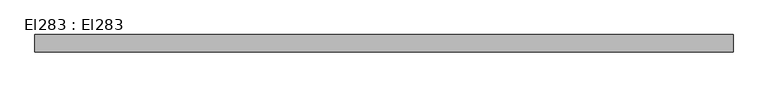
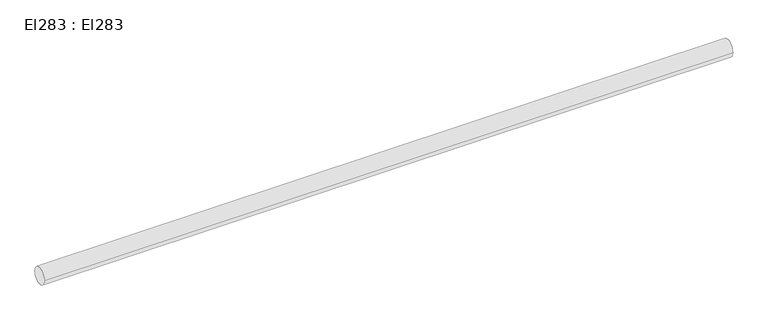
"""IFC4 building model written with IfcOpenShell, lengths in millimetres: cable carrier segment geometry, El283 : El283."""

import ifcopenshell
import ifcopenshell.guid

model = None  # the IFC model being written
_history = None  # IfcOwnerHistory: only IFC2X3 demands one
_inside = {}  # id of a spatial element -> (the spatial element, [elements in it])
_under = {}  # id of a project, library or spatial element -> (it, [spatial elements below it])
_declared = {}  # id of a project -> (the project, [libraries it declares])
_typed = {}  # id of a type object -> (the type object, [elements of that type])
_made_of = {}  # id of a material, layer set ... -> (it, [elements and type objects made of it])


def new_model(schema):
    """Start an empty IFC model of exactly this schema.

    Asked for "IFC4X3", IfcOpenShell would pick the latest addendum, in which some entities
    have other attributes; the version numbers below select the first issue.
    IFC2X3 requires an IfcOwnerHistory on every rooted entity: one is made here for all.
    """
    global model, _history
    if schema == "IFC4X3":
        model = ifcopenshell.file(schema_version=(4, 3, 0, 0))
    else:
        model = ifcopenshell.file(schema=schema)
    _inside.clear()
    _under.clear()
    _declared.clear()
    _typed.clear()
    _made_of.clear()
    _history = None
    if model.schema == "IFC2X3":
        org = make("IfcOrganization", Name="unknown")
        user = make(
            "IfcPersonAndOrganization",
            ThePerson=make("IfcPerson", FamilyName="unknown"),
            TheOrganization=org,
        )
        app = make(
            "IfcApplication",
            ApplicationDeveloper=org,
            Version="unknown",
            ApplicationFullName="unknown",
            ApplicationIdentifier="unknown",
        )
        _history = make(
            "IfcOwnerHistory",
            OwningUser=user,
            OwningApplication=app,
            ChangeAction="ADDED",
            CreationDate=0,
        )
    return model


def make(cls, **values):
    """One entity of the class cls with the attributes given. An attribute that is None is left unset."""
    return model.create_entity(
        cls, **{name: value for name, value in values.items() if value is not None}
    )


def rooted(cls, **values):
    """An entity with a GlobalId (a new one), such as an element, a storey or a relation."""
    return make(cls, GlobalId=ifcopenshell.guid.new(), OwnerHistory=_history, **values)


def si_unit(unit_type, name, prefix=None):
    """IfcSIUnit, for example si_unit("LENGTHUNIT", "METRE", prefix="MILLI")."""
    return make("IfcSIUnit", UnitType=unit_type, Prefix=prefix, Name=name)


def assignment(units):
    """IfcUnitAssignment: the units of a project."""
    return None if units is None else make("IfcUnitAssignment", Units=units)


def point(xyz):
    """IfcCartesianPoint."""
    return None if xyz is None else make("IfcCartesianPoint", Coordinates=xyz)


def direction(xyz):
    """IfcDirection."""
    return None if xyz is None else make("IfcDirection", DirectionRatios=xyz)


def frame(location, z_axis=None, x_axis=None):
    """IfcAxis2Placement3D, a coordinate frame: its origin and axes. An axis left out is left unset."""
    return make(
        "IfcAxis2Placement3D",
        Location=point(location),
        Axis=direction(z_axis),
        RefDirection=direction(x_axis),
    )


def frame_2d(location, x_axis=None):
    """IfcAxis2Placement2D, a coordinate frame in the plane: its origin and x axis."""
    return make(
        "IfcAxis2Placement2D", Location=point(location), RefDirection=direction(x_axis)
    )


def origin():
    """The frame at (0, 0, 0) with its axes left unset."""
    return frame((0.0, 0.0, 0.0))


def place(relative_to, where):
    """IfcLocalPlacement: puts the frame where relative to a parent placement (None: the world)."""
    return make(
        "IfcLocalPlacement", PlacementRelTo=relative_to, RelativePlacement=where
    )


def context(
    kind, dimensions, precision=None, world=None, true_north=None, identifier=None
):
    """IfcGeometricRepresentationContext, for example the 3D "Model" context."""
    return make(
        "IfcGeometricRepresentationContext",
        ContextIdentifier=identifier,
        ContextType=kind,
        CoordinateSpaceDimension=dimensions,
        Precision=precision,
        WorldCoordinateSystem=world,
        TrueNorth=true_north,
    )


def project(units=None, contexts=None):
    """IfcProject with its units and contexts."""
    return rooted(
        "IfcProject",
        Name="project",
        RepresentationContexts=contexts,
        UnitsInContext=assignment(units),
    )


def spatial(cls, under=None, at=None, **own):
    """A site, building, storey or space (cls), placed at a placement, below another one or the project."""
    s = rooted(cls, ObjectPlacement=at, **own)
    if under is not None:
        _under.setdefault(under.id(), (under, []))[1].append(s)
    return s


def circle_curve(where, radius):
    """IfcCircle in the frame where."""
    return make("IfcCircle", Position=where, Radius=radius)


def trimmed(basis, trim1, trim2, sense, master):
    """IfcTrimmedCurve: the piece of a basis curve between two trims."""
    return make(
        "IfcTrimmedCurve",
        BasisCurve=basis,
        Trim1=trim1,
        Trim2=trim2,
        SenseAgreement=sense,
        MasterRepresentation=master,
    )


def segment(curve, same_sense, transition):
    """IfcCompositeCurveSegment."""
    return make(
        "IfcCompositeCurveSegment",
        Transition=transition,
        SameSense=same_sense,
        ParentCurve=curve,
    )


def composite_curve(segments, self_intersect=None):
    """IfcCompositeCurve: segments joined end to end."""
    return make("IfcCompositeCurve", Segments=segments, SelfIntersect=self_intersect)


def outline(outer, holes=None, kind="AREA"):
    """IfcArbitraryClosedProfileDef: a profile drawn as a closed curve; with holes, ...WithVoids."""
    if holes is None:
        return make("IfcArbitraryClosedProfileDef", ProfileType=kind, OuterCurve=outer)
    return make(
        "IfcArbitraryProfileDefWithVoids",
        ProfileType=kind,
        OuterCurve=outer,
        InnerCurves=holes,
    )


def extrude(swept, where, along, depth):
    """IfcExtrudedAreaSolid: the profile swept, set in the frame where, extruded along a direction by depth."""
    return make(
        "IfcExtrudedAreaSolid",
        SweptArea=swept,
        Position=where,
        ExtrudedDirection=direction(along),
        Depth=depth,
    )


def shape(context_of_items, identifier, shape_type, items):
    """IfcShapeRepresentation: the items that make up one representation, for example the "Body"."""
    return make(
        "IfcShapeRepresentation",
        ContextOfItems=context_of_items,
        RepresentationIdentifier=identifier,
        RepresentationType=shape_type,
        Items=items,
    )


def source(mapping_origin, context_of_items, identifier, shape_type, items):
    """IfcRepresentationMap: a shape defined once, which mapped items show again and again."""
    return make(
        "IfcRepresentationMap",
        MappingOrigin=mapping_origin,
        MappedRepresentation=shape(context_of_items, identifier, shape_type, items),
    )


def transform(
    local_origin,
    x_axis=None,
    y_axis=None,
    z_axis=None,
    scale=None,
    scale2=None,
    scale3=None,
    uniform=True,
):
    """IfcCartesianTransformationOperator3D, or its non-uniform kind. x_axis, y_axis, z_axis: its Axis1, 2, 3."""
    if uniform:
        return make(
            "IfcCartesianTransformationOperator3D",
            Axis1=direction(x_axis),
            Axis2=direction(y_axis),
            LocalOrigin=point(local_origin),
            Scale=scale,
            Axis3=direction(z_axis),
        )
    return make(
        "IfcCartesianTransformationOperator3DnonUniform",
        Axis1=direction(x_axis),
        Axis2=direction(y_axis),
        LocalOrigin=point(local_origin),
        Scale=scale,
        Axis3=direction(z_axis),
        Scale2=scale2,
        Scale3=scale3,
    )


def mapped(mapping_source, mapping_target):
    """IfcMappedItem: shows the shape of a source again, moved by a transform."""
    return make(
        "IfcMappedItem", MappingSource=mapping_source, MappingTarget=mapping_target
    )


def made_of(thing, what):
    """Note that an element or type object is made of a material, layer set ...; save() writes the relation."""
    if what is not None:
        _made_of.setdefault(what.id(), (what, []))[1].append(thing)
    return thing


def element(
    cls,
    number,
    at=None,
    inside=None,
    cuts=None,
    type_object=None,
    material=None,
    context=None,
    identifier="Body",
    shape_type=None,
    held_by="IfcProductDefinitionShape",
    body=None,
    shapes=None,
    **own,
):
    """One element of the class cls, such as IfcWall. Its Tag is "e" and its number.

    at: its placement. inside: the storey or other place that contains it. cuts: it is an
    opening in that element (IfcRelVoidsElement). A single representation is given by context,
    identifier, shape_type and body (its items); several are given by shapes. held_by: the class
    of the entity that holds the representations. save() writes the other relations.
    """
    e = rooted(cls, Tag="e%d" % number, ObjectPlacement=at, **own)
    if body is not None:
        shapes = [shape(context, identifier, shape_type, body)]
    if shapes is not None:
        e.Representation = make(held_by, Representations=shapes)
    if inside is not None:
        _inside.setdefault(inside.id(), (inside, []))[1].append(e)
    if cuts is not None:
        rooted(
            "IfcRelVoidsElement", RelatingBuildingElement=cuts, RelatedOpeningElement=e
        )
    if type_object is not None:
        _typed.setdefault(type_object.id(), (type_object, []))[1].append(e)
    return made_of(e, material)


def aggregate(whole, parts):
    """IfcRelAggregates: a whole, such as a stair, and the parts it consists of."""
    return rooted("IfcRelAggregates", RelatingObject=whole, RelatedObjects=parts)


def save(model, path):
    """Write the relations noted so far, then the file.

    IfcRelAggregates (storeys below a building ...), IfcRelContainedInSpatialStructure (elements
    in a storey), IfcRelDefinesByType, IfcRelAssociatesMaterial and IfcRelDeclares: one each for
    every whole, place, type object, material and project.
    """
    for whole, parts in _under.values():
        aggregate(whole, parts)
    for where, things in _inside.values():
        rooted(
            "IfcRelContainedInSpatialStructure",
            RelatedElements=things,
            RelatingStructure=where,
        )
    for kind, things in _typed.values():
        rooted("IfcRelDefinesByType", RelatedObjects=things, RelatingType=kind)
    for what, things in _made_of.values():
        rooted("IfcRelAssociatesMaterial", RelatedObjects=things, RelatingMaterial=what)
    for by, libraries in _declared.values():
        rooted("IfcRelDeclares", RelatingContext=by, RelatedDefinitions=libraries)
    model.write(path)


def el283_el283_d48b5216(model_context):
    return source(origin(), model_context, "Body", "SweptSolid", [
        extrude(outline(composite_curve([segment(trimmed(circle_curve(frame_2d((14766.3, 2950.0)), 37.5), [point((14728.8, 2950.0))], [point((14803.8, 2950.0))], False, "CARTESIAN"), True, "CONTINUOUS"), segment(trimmed(circle_curve(frame_2d((14766.3, 2950.0)), 37.5), [point((14803.8, 2950.0))], [point((14728.8, 2950.0))], False, "CARTESIAN"), True, "CONTINUOUS")], self_intersect=False)), frame((12164.53, 0.0, 0.0), z_axis=(1.0, 0.0, 0.0), x_axis=(0.0, 1.0, 0.0)), (0.0, 0.0, 1.0), 3020.14),
    ])


if __name__ == "__main__":
    model = new_model("IFC4")
    model_context = context("Model", 3, world=origin())
    ifc_project = project(units=[si_unit("LENGTHUNIT", "METRE", prefix="MILLI")], contexts=[model_context])
    site = spatial("IfcSite", under=ifc_project)
    building = spatial("IfcBuilding", under=site)
    placement = place(None, origin())
    el283_el283_shape = el283_el283_d48b5216(model_context)
    element("IfcCableCarrierSegment", 1, ObjectType="El283 : El283", at=placement, inside=building, context=model_context, shape_type="MappedRepresentation", body=[
        mapped(el283_el283_shape, transform((0.0, 0.0, 0.0), x_axis=(1.0, 0.0, 0.0), y_axis=(0.0, 1.0, 0.0), z_axis=(0.0, 0.0, 1.0))),
    ])
    save(model, "model.ifc")
